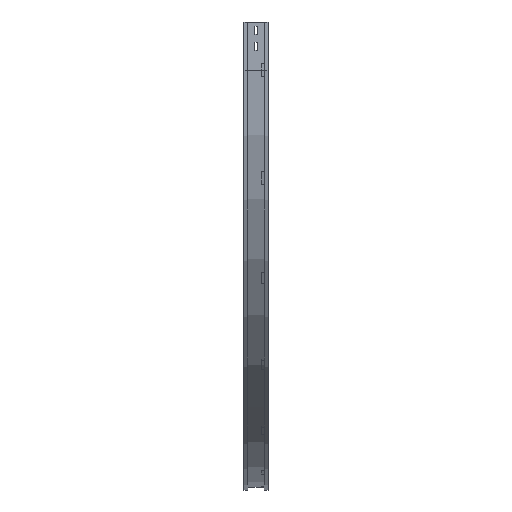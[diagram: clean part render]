
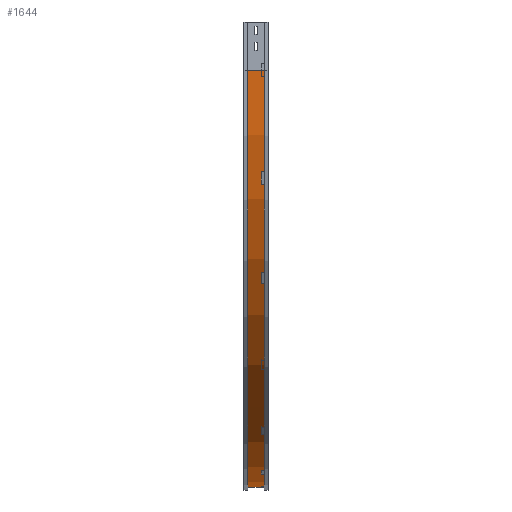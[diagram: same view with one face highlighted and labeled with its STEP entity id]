
A CAD part, left-side view. The second image highlights one B-rep face of the part: STEP entity #1644.
In plain terms, the highlighted cylindrical face has radius 1300 mm (diameter 2600 mm), a partial arc.
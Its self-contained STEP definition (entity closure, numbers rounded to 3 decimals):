
#46 = EDGE_CURVE ( 'NONE', #2272, #561, #1412, .T. ) ;
#149 = DIRECTION ( 'NONE',  ( 0., -1., 0. ) ) ;
#291 = DIRECTION ( 'NONE',  ( 0., -1., 0. ) ) ;
#561 = VERTEX_POINT ( 'NONE', #3333 ) ;
#638 = CARTESIAN_POINT ( 'NONE',  ( 1309., 12., -150. ) ) ;
#722 = CARTESIAN_POINT ( 'NONE',  ( 1309., 63., -150. ) ) ;
#744 = DIRECTION ( 'NONE',  ( 0., -1., 0. ) ) ;
#781 = CARTESIAN_POINT ( 'NONE',  ( 9., 63., -150. ) ) ;
#1003 = CARTESIAN_POINT ( 'NONE',  ( 9., 12., -150. ) ) ;
#1038 = ORIENTED_EDGE ( 'NONE', *, *, #2440, .F. ) ;
#1091 = FACE_OUTER_BOUND ( 'NONE', #3240, .T. ) ;
#1136 = AXIS2_PLACEMENT_3D ( 'NONE', #722, #744, #1808 ) ;
#1168 = ORIENTED_EDGE ( 'NONE', *, *, #46, .T. ) ;
#1230 = DIRECTION ( 'NONE',  ( -1., 0., 0. ) ) ;
#1247 = LINE ( 'NONE', #2309, #3349 ) ;
#1261 = AXIS2_PLACEMENT_3D ( 'NONE', #638, #149, #1230 ) ;
#1412 = CIRCLE ( 'NONE', #1136, 1300. ) ;
#1481 = EDGE_CURVE ( 'NONE', #1992, #2165, #1985, .T. ) ;
#1554 = ORIENTED_EDGE ( 'NONE', *, *, #3403, .T. ) ;
#1644 = ADVANCED_FACE ( 'NONE', ( #1091 ), #2432, .T. ) ;
#1655 = CARTESIAN_POINT ( 'NONE',  ( 1309., 0., -150. ) ) ;
#1808 = DIRECTION ( 'NONE',  ( -1., 0., 0. ) ) ;
#1985 = CIRCLE ( 'NONE', #1261, 1300. ) ;
#1992 = VERTEX_POINT ( 'NONE', #1003 ) ;
#2099 = CARTESIAN_POINT ( 'NONE',  ( 1309., 12., -1450. ) ) ;
#2165 = VERTEX_POINT ( 'NONE', #2099 ) ;
#2180 = CARTESIAN_POINT ( 'NONE',  ( 9., 12., -150. ) ) ;
#2272 = VERTEX_POINT ( 'NONE', #781 ) ;
#2309 = CARTESIAN_POINT ( 'NONE',  ( 1309., 12., -1450. ) ) ;
#2432 = CYLINDRICAL_SURFACE ( 'NONE', #3039, 1300. ) ;
#2440 = EDGE_CURVE ( 'NONE', #2272, #1992, #2515, .T. ) ;
#2515 = LINE ( 'NONE', #2180, #2923 ) ;
#2703 = DIRECTION ( 'NONE',  ( 0., 0., -1. ) ) ;
#2923 = VECTOR ( 'NONE', #3257, 1000. ) ;
#3039 = AXIS2_PLACEMENT_3D ( 'NONE', #1655, #291, #2703 ) ;
#3240 = EDGE_LOOP ( 'NONE', ( #3408, #1038, #1168, #1554 ) ) ;
#3257 = DIRECTION ( 'NONE',  ( 0., -1., 0. ) ) ;
#3333 = CARTESIAN_POINT ( 'NONE',  ( 1309., 63., -1450. ) ) ;
#3349 = VECTOR ( 'NONE', #3421, 1000. ) ;
#3403 = EDGE_CURVE ( 'NONE', #561, #2165, #1247, .T. ) ;
#3408 = ORIENTED_EDGE ( 'NONE', *, *, #1481, .F. ) ;
#3421 = DIRECTION ( 'NONE',  ( 0., -1., 0. ) ) ;
